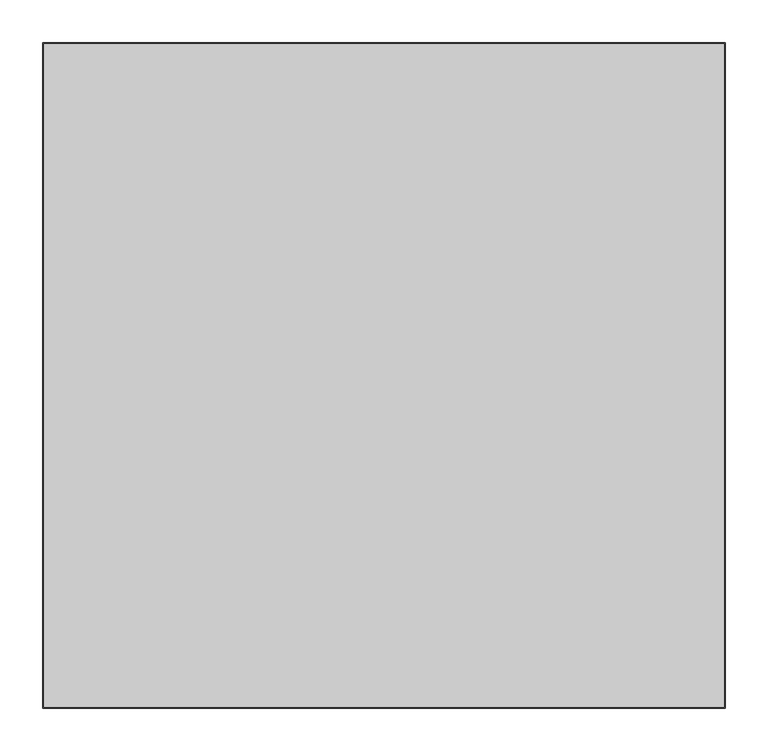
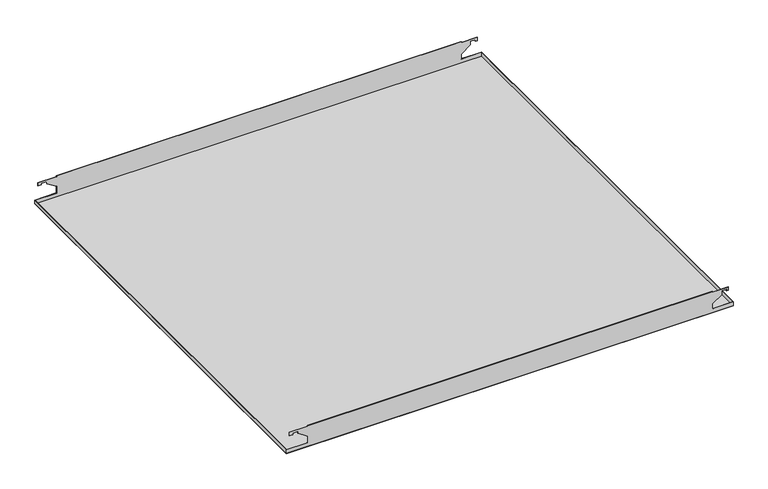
"""IFC4 building model written with IfcOpenShell, lengths in millimetres: proxy geometry, durlum_S10H_RHOMBOS_panel : durlum_S10H_RHOMBOS_panel_wall_length_cut."""

from ifc_helpers import new_model, si_unit, origin, origin_with_axes, place, context, project, spatial, polyline, outline, extrude, faceted_brep, source, transform, mapped, element, save


def generic_models_c480849c(model_context):
    return source(origin(), model_context, "Body", "SolidModel", [
        faceted_brep([(362.6449361, -389.75, 40.0), (362.6449361, -389.15, 40.0), (-361.2372764, -389.15, 40.0), (-361.2372764, -389.75, 40.0), (362.6449361, 389.15, 40.0), (362.6449361, 389.75, 40.0), (-361.2372764, 389.75, 40.0), (-361.2372764, 389.15, 40.0), (399.75, 389.75, 0.6), (399.75, -389.75, 0.6), (-399.75, -389.75, 0.6), (-399.75, 389.75, 0.6), (399.15, 389.15, 0.6), (-399.15, 389.15, 0.6), (-399.15, -389.15, 0.6), (399.15, -389.15, 0.6), (-399.75, 389.75, 7.4953392), (-361.2372764, 389.75, 7.4953392), (-361.2372764, 389.75, 20.146504), (-378.641527, 389.75, 31.0550715), (-378.641527, 389.75, 35.3409289), (-388.641527, 389.75, 35.3409289), (-388.641527, 389.75, 32.5809806), (-394.2936209, 389.75, 32.5809806), (-394.2936209, 389.75, 38.4781412), (-361.2372764, 389.75, 38.4781412), (362.6449361, 389.75, 38.4781412), (391.4054236, 389.75, 38.4781412), (391.4054236, 389.75, 32.5809806), (387.9909365, 389.75, 32.5809806), (387.9909365, 389.75, 35.3409289), (379.2577291, 389.75, 35.3409289), (379.2577291, 389.75, 28.4951448), (362.6449361, 389.75, 16.8522162), (362.6449361, 389.75, 7.4953392), (399.75, 389.75, 7.4953392), (-399.75, -389.75, 7.4953392), (399.75, -389.75, 7.4953392), (362.6449361, -389.75, 7.4953392), (362.6449361, -389.75, 16.8522162), (379.2577291, -389.75, 28.4951448), (379.2577291, -389.75, 35.3409289), (387.9909365, -389.75, 35.3409289), (387.9909365, -389.75, 32.5809806), (391.4054236, -389.75, 32.5809806), (391.4054236, -389.75, 38.4781412), (362.6449361, -389.75, 38.4781412), (-361.2372764, -389.75, 38.4781412), (-394.2936209, -389.75, 38.4781412), (-394.2936209, -389.75, 32.5809806), (-388.641527, -389.75, 32.5809806), (-388.641527, -389.75, 35.3409289), (-378.641527, -389.75, 35.3409289), (-378.641527, -389.75, 31.0550715), (-361.2372764, -389.75, 20.146504), (-361.2372764, -389.75, 7.4953392), (399.15, -389.15, 7.4953392), (399.15, 389.15, 7.4953392), (-399.15, -389.15, 7.4953392), (-361.2372764, -389.15, 7.4953392), (-361.2372764, -389.15, 20.146504), (-378.641527, -389.15, 31.0550715), (-378.641527, -389.15, 35.3409289), (-388.641527, -389.15, 35.3409289), (-388.641527, -389.15, 32.5809806), (-394.2936209, -389.15, 32.5809806), (-394.2936209, -389.15, 38.4781412), (-361.2372764, -389.15, 38.4781412), (362.6449361, -389.15, 38.4781412), (391.4054236, -389.15, 38.4781412), (391.4054236, -389.15, 32.5809806), (387.9909365, -389.15, 32.5809806), (387.9909365, -389.15, 35.3409289), (379.2577291, -389.15, 35.3409289), (379.2577291, -389.15, 28.4951448), (362.6449361, -389.15, 16.8522162), (362.6449361, -389.15, 7.4953392), (-399.15, 389.15, 7.4953392), (362.6449361, 389.15, 7.4953392), (362.6449361, 389.15, 16.8522162), (379.2577291, 389.15, 28.4951448), (379.2577291, 389.15, 35.3409289), (387.9909365, 389.15, 35.3409289), (387.9909365, 389.15, 32.5809806), (391.4054236, 389.15, 32.5809806), (391.4054236, 389.15, 38.4781412), (362.6449361, 389.15, 38.4781412), (-361.2372764, 389.15, 38.4781412), (-394.2936209, 389.15, 38.4781412), (-394.2936209, 389.15, 32.5809806), (-388.641527, 389.15, 32.5809806), (-388.641527, 389.15, 35.3409289), (-378.641527, 389.15, 35.3409289), (-378.641527, 389.15, 31.0550715), (-361.2372764, 389.15, 20.146504), (-361.2372764, 389.15, 7.4953392)], [[[0, 1, 2, 3]], [[4, 5, 6, 7]], [[8, 9, 10, 11], [12, 13, 14, 15]], [[8, 11, 16, 17, 18, 19, 20, 21, 22, 23, 24, 25, 6, 5, 26, 27, 28, 29, 30, 31, 32, 33, 34, 35]], [[11, 10, 36, 16]], [[10, 9, 37, 38, 39, 40, 41, 42, 43, 44, 45, 46, 0, 3, 47, 48, 49, 50, 51, 52, 53, 54, 55, 36]], [[9, 8, 35, 37]], [[12, 15, 56, 57]], [[15, 14, 58, 59, 60, 61, 62, 63, 64, 65, 66, 67, 2, 1, 68, 69, 70, 71, 72, 73, 74, 75, 76, 56]], [[14, 13, 77, 58]], [[13, 12, 57, 78, 79, 80, 81, 82, 83, 84, 85, 86, 4, 7, 87, 88, 89, 90, 91, 92, 93, 94, 95, 77]], [[68, 46, 45, 69]], [[26, 86, 85, 27]], [[69, 45, 44, 70]], [[27, 85, 84, 28]], [[70, 44, 43, 71]], [[28, 84, 83, 29]], [[71, 43, 42, 72]], [[29, 83, 82, 30]], [[72, 42, 41, 73]], [[30, 82, 81, 31]], [[73, 41, 40, 74]], [[31, 81, 80, 32]], [[74, 40, 39, 75]], [[32, 80, 79, 33]], [[75, 39, 38, 76]], [[33, 79, 78, 34]], [[76, 38, 37, 35, 34, 78, 57, 56]], [[46, 68, 1, 0]], [[86, 26, 5, 4]], [[66, 48, 47, 67]], [[24, 88, 87, 25]], [[48, 66, 65, 49]], [[88, 24, 23, 89]], [[49, 65, 64, 50]], [[89, 23, 22, 90]], [[50, 64, 63, 51]], [[90, 22, 21, 91]], [[51, 63, 62, 52]], [[91, 21, 20, 92]], [[52, 62, 61, 53]], [[92, 20, 19, 93]], [[53, 61, 60, 54]], [[93, 19, 18, 94]], [[54, 60, 59, 55]], [[94, 18, 17, 95]], [[55, 59, 58, 77, 95, 17, 16, 36]], [[67, 47, 3, 2]], [[25, 87, 7, 6]]]),
        extrude(outline(polyline([(399.75, 389.75), (399.75, -389.75), (-399.75, -389.75), (-399.75, 389.75), (399.75, 389.75)])), origin_with_axes(), (0.0, 0.0, 1.0), 0.6),
    ])


if __name__ == "__main__":
    model = new_model("IFC4")
    model_context = context("Model", 3, world=origin())
    ifc_project = project(units=[si_unit("LENGTHUNIT", "METRE", prefix="MILLI")], contexts=[model_context])
    site = spatial("IfcSite", under=ifc_project)
    building = spatial("IfcBuilding", under=site)
    placement = place(None, origin())
    generic_models_shape = generic_models_c480849c(model_context)
    element("IfcBuildingElementProxy", 1, Name="durlum_S10H_RHOMBOS_panel : durlum_S10H_RHOMBOS_panel_wall_length_cut", ObjectType="durlum_S10H_RHOMBOS_panel : durlum_S10H_RHOMBOS_panel_wall_length_cut", at=placement, inside=building, context=model_context, shape_type="MappedRepresentation", body=[
        mapped(generic_models_shape, transform((0.0, 0.0, 0.0), x_axis=(1.0, 0.0, 0.0), y_axis=(0.0, 1.0, 0.0), z_axis=(0.0, 0.0, 1.0))),
    ])
    save(model, "model.ifc")
